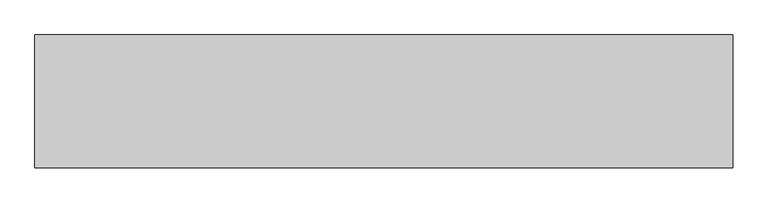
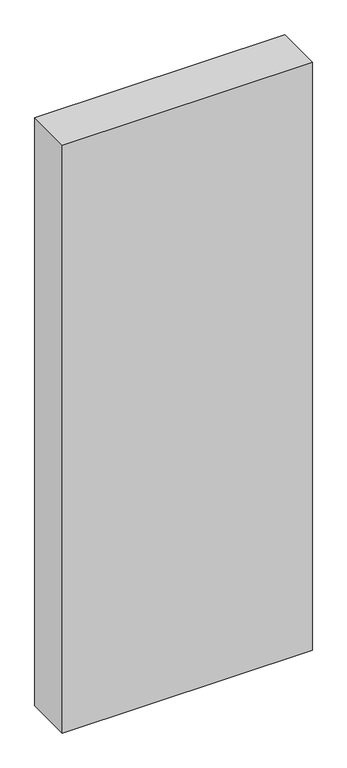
"""IFC4 building model written with IfcOpenShell, lengths in millimetres: proxy geometry."""

import ifcopenshell
import ifcopenshell.guid

model = None  # the IFC model being written
_history = None  # IfcOwnerHistory: only IFC2X3 demands one
_inside = {}  # id of a spatial element -> (the spatial element, [elements in it])
_under = {}  # id of a project, library or spatial element -> (it, [spatial elements below it])
_declared = {}  # id of a project -> (the project, [libraries it declares])
_typed = {}  # id of a type object -> (the type object, [elements of that type])
_made_of = {}  # id of a material, layer set ... -> (it, [elements and type objects made of it])


def new_model(schema):
    """Start an empty IFC model of exactly this schema.

    Asked for "IFC4X3", IfcOpenShell would pick the latest addendum, in which some entities
    have other attributes; the version numbers below select the first issue.
    IFC2X3 requires an IfcOwnerHistory on every rooted entity: one is made here for all.
    """
    global model, _history
    if schema == "IFC4X3":
        model = ifcopenshell.file(schema_version=(4, 3, 0, 0))
    else:
        model = ifcopenshell.file(schema=schema)
    _inside.clear()
    _under.clear()
    _declared.clear()
    _typed.clear()
    _made_of.clear()
    _history = None
    if model.schema == "IFC2X3":
        org = make("IfcOrganization", Name="unknown")
        user = make(
            "IfcPersonAndOrganization",
            ThePerson=make("IfcPerson", FamilyName="unknown"),
            TheOrganization=org,
        )
        app = make(
            "IfcApplication",
            ApplicationDeveloper=org,
            Version="unknown",
            ApplicationFullName="unknown",
            ApplicationIdentifier="unknown",
        )
        _history = make(
            "IfcOwnerHistory",
            OwningUser=user,
            OwningApplication=app,
            ChangeAction="ADDED",
            CreationDate=0,
        )
    return model


def make(cls, **values):
    """One entity of the class cls with the attributes given. An attribute that is None is left unset."""
    return model.create_entity(
        cls, **{name: value for name, value in values.items() if value is not None}
    )


def rooted(cls, **values):
    """An entity with a GlobalId (a new one), such as an element, a storey or a relation."""
    return make(cls, GlobalId=ifcopenshell.guid.new(), OwnerHistory=_history, **values)


def si_unit(unit_type, name, prefix=None):
    """IfcSIUnit, for example si_unit("LENGTHUNIT", "METRE", prefix="MILLI")."""
    return make("IfcSIUnit", UnitType=unit_type, Prefix=prefix, Name=name)


def assignment(units):
    """IfcUnitAssignment: the units of a project."""
    return None if units is None else make("IfcUnitAssignment", Units=units)


def point(xyz):
    """IfcCartesianPoint."""
    return None if xyz is None else make("IfcCartesianPoint", Coordinates=xyz)


def direction(xyz):
    """IfcDirection."""
    return None if xyz is None else make("IfcDirection", DirectionRatios=xyz)


def frame(location, z_axis=None, x_axis=None):
    """IfcAxis2Placement3D, a coordinate frame: its origin and axes. An axis left out is left unset."""
    return make(
        "IfcAxis2Placement3D",
        Location=point(location),
        Axis=direction(z_axis),
        RefDirection=direction(x_axis),
    )


def origin():
    """The frame at (0, 0, 0) with its axes left unset."""
    return frame((0.0, 0.0, 0.0))


def origin_with_axes():
    """The frame at (0, 0, 0) with the z axis (0, 0, 1) and the x axis (1, 0, 0) written out."""
    return frame((0.0, 0.0, 0.0), z_axis=(0.0, 0.0, 1.0), x_axis=(1.0, 0.0, 0.0))


def place(relative_to, where):
    """IfcLocalPlacement: puts the frame where relative to a parent placement (None: the world)."""
    return make(
        "IfcLocalPlacement", PlacementRelTo=relative_to, RelativePlacement=where
    )


def context(
    kind, dimensions, precision=None, world=None, true_north=None, identifier=None
):
    """IfcGeometricRepresentationContext, for example the 3D "Model" context."""
    return make(
        "IfcGeometricRepresentationContext",
        ContextIdentifier=identifier,
        ContextType=kind,
        CoordinateSpaceDimension=dimensions,
        Precision=precision,
        WorldCoordinateSystem=world,
        TrueNorth=true_north,
    )


def project(units=None, contexts=None):
    """IfcProject with its units and contexts."""
    return rooted(
        "IfcProject",
        Name="project",
        RepresentationContexts=contexts,
        UnitsInContext=assignment(units),
    )


def spatial(cls, under=None, at=None, **own):
    """A site, building, storey or space (cls), placed at a placement, below another one or the project."""
    s = rooted(cls, ObjectPlacement=at, **own)
    if under is not None:
        _under.setdefault(under.id(), (under, []))[1].append(s)
    return s


def polyline(points):
    """IfcPolyline through the points."""
    return make("IfcPolyline", Points=[point(p) for p in points])


def outline(outer, holes=None, kind="AREA"):
    """IfcArbitraryClosedProfileDef: a profile drawn as a closed curve; with holes, ...WithVoids."""
    if holes is None:
        return make("IfcArbitraryClosedProfileDef", ProfileType=kind, OuterCurve=outer)
    return make(
        "IfcArbitraryProfileDefWithVoids",
        ProfileType=kind,
        OuterCurve=outer,
        InnerCurves=holes,
    )


def extrude(swept, where, along, depth):
    """IfcExtrudedAreaSolid: the profile swept, set in the frame where, extruded along a direction by depth."""
    return make(
        "IfcExtrudedAreaSolid",
        SweptArea=swept,
        Position=where,
        ExtrudedDirection=direction(along),
        Depth=depth,
    )


def shape(context_of_items, identifier, shape_type, items):
    """IfcShapeRepresentation: the items that make up one representation, for example the "Body"."""
    return make(
        "IfcShapeRepresentation",
        ContextOfItems=context_of_items,
        RepresentationIdentifier=identifier,
        RepresentationType=shape_type,
        Items=items,
    )


def source(mapping_origin, context_of_items, identifier, shape_type, items):
    """IfcRepresentationMap: a shape defined once, which mapped items show again and again."""
    return make(
        "IfcRepresentationMap",
        MappingOrigin=mapping_origin,
        MappedRepresentation=shape(context_of_items, identifier, shape_type, items),
    )


def transform(
    local_origin,
    x_axis=None,
    y_axis=None,
    z_axis=None,
    scale=None,
    scale2=None,
    scale3=None,
    uniform=True,
):
    """IfcCartesianTransformationOperator3D, or its non-uniform kind. x_axis, y_axis, z_axis: its Axis1, 2, 3."""
    if uniform:
        return make(
            "IfcCartesianTransformationOperator3D",
            Axis1=direction(x_axis),
            Axis2=direction(y_axis),
            LocalOrigin=point(local_origin),
            Scale=scale,
            Axis3=direction(z_axis),
        )
    return make(
        "IfcCartesianTransformationOperator3DnonUniform",
        Axis1=direction(x_axis),
        Axis2=direction(y_axis),
        LocalOrigin=point(local_origin),
        Scale=scale,
        Axis3=direction(z_axis),
        Scale2=scale2,
        Scale3=scale3,
    )


def mapped(mapping_source, mapping_target):
    """IfcMappedItem: shows the shape of a source again, moved by a transform."""
    return make(
        "IfcMappedItem", MappingSource=mapping_source, MappingTarget=mapping_target
    )


def made_of(thing, what):
    """Note that an element or type object is made of a material, layer set ...; save() writes the relation."""
    if what is not None:
        _made_of.setdefault(what.id(), (what, []))[1].append(thing)
    return thing


def element(
    cls,
    number,
    at=None,
    inside=None,
    cuts=None,
    type_object=None,
    material=None,
    context=None,
    identifier="Body",
    shape_type=None,
    held_by="IfcProductDefinitionShape",
    body=None,
    shapes=None,
    **own,
):
    """One element of the class cls, such as IfcWall. Its Tag is "e" and its number.

    at: its placement. inside: the storey or other place that contains it. cuts: it is an
    opening in that element (IfcRelVoidsElement). A single representation is given by context,
    identifier, shape_type and body (its items); several are given by shapes. held_by: the class
    of the entity that holds the representations. save() writes the other relations.
    """
    e = rooted(cls, Tag="e%d" % number, ObjectPlacement=at, **own)
    if body is not None:
        shapes = [shape(context, identifier, shape_type, body)]
    if shapes is not None:
        e.Representation = make(held_by, Representations=shapes)
    if inside is not None:
        _inside.setdefault(inside.id(), (inside, []))[1].append(e)
    if cuts is not None:
        rooted(
            "IfcRelVoidsElement", RelatingBuildingElement=cuts, RelatedOpeningElement=e
        )
    if type_object is not None:
        _typed.setdefault(type_object.id(), (type_object, []))[1].append(e)
    return made_of(e, material)


def aggregate(whole, parts):
    """IfcRelAggregates: a whole, such as a stair, and the parts it consists of."""
    return rooted("IfcRelAggregates", RelatingObject=whole, RelatedObjects=parts)


def save(model, path):
    """Write the relations noted so far, then the file.

    IfcRelAggregates (storeys below a building ...), IfcRelContainedInSpatialStructure (elements
    in a storey), IfcRelDefinesByType, IfcRelAssociatesMaterial and IfcRelDeclares: one each for
    every whole, place, type object, material and project.
    """
    for whole, parts in _under.values():
        aggregate(whole, parts)
    for where, things in _inside.values():
        rooted(
            "IfcRelContainedInSpatialStructure",
            RelatedElements=things,
            RelatingStructure=where,
        )
    for kind, things in _typed.values():
        rooted("IfcRelDefinesByType", RelatedObjects=things, RelatingType=kind)
    for what, things in _made_of.values():
        rooted("IfcRelAssociatesMaterial", RelatedObjects=things, RelatingMaterial=what)
    for by, libraries in _declared.values():
        rooted("IfcRelDeclares", RelatingContext=by, RelatedDefinitions=libraries)
    model.write(path)


def generic_models_e22b3fbf(model_context):
    return source(origin(), model_context, "Body", "SweptSolid", [
        extrude(outline(polyline([(-1000.0, 0.0), (0.0, 0.0), (0.0, -190.0), (-1000.0, -190.0), (-1000.0, 0.0)])), origin_with_axes(), (0.0, 0.0, 1.0), 2485.0),
    ])


if __name__ == "__main__":
    model = new_model("IFC4")
    model_context = context("Model", 3, world=origin())
    ifc_project = project(units=[si_unit("LENGTHUNIT", "METRE", prefix="MILLI")], contexts=[model_context])
    site = spatial("IfcSite", under=ifc_project)
    building = spatial("IfcBuilding", under=site)
    placement = place(None, origin())
    generic_models_shape = generic_models_e22b3fbf(model_context)
    element("IfcBuildingElementProxy", 1, Name="Generic Models", at=placement, inside=building, context=model_context, shape_type="MappedRepresentation", body=[
        mapped(generic_models_shape, transform((0.0, 0.0, 0.0), x_axis=(1.0, 0.0, 0.0), y_axis=(0.0, 1.0, 0.0), z_axis=(0.0, 0.0, 1.0))),
    ])
    save(model, "model.ifc")
